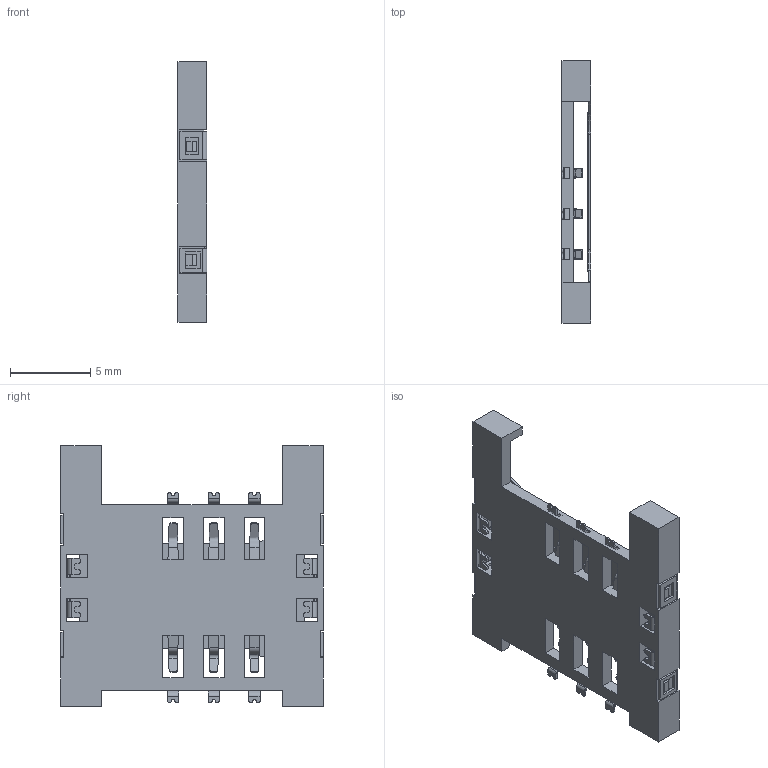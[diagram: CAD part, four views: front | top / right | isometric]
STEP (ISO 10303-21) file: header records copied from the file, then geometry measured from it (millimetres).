
FILE_DESCRIPTION((''),'2;1');
FILE_NAME('SIM-CARD_1050606AR006','2019-02-26T',('Administrator'),(''),'PRO/ENGINEER BY PARAMETRIC TECHNOLOGY CORPORATION, 2010280','PRO/ENGINEER BY PARAMETRIC TECHNOLOGY CORPORATION, 2010280','');
FILE_SCHEMA(('CONFIG_CONTROL_DESIGN'));
Length unit declared in the file: millimetre
Products named in the file (1): SIM-CARD_1050606AR006
Bounding box: 1.85 x 16.4 x 16.3 mm (x, y, z)
Volume: 178.6 mm3; surface area: 859.9 mm2
Topology: 5 solids, 5 shells, 470 faces, 1382 edges, 922 vertices
Faces by surface type: plane 320, cylinder 142, cone 8
Entity records: 15744 total; most frequent: CARTESIAN_POINT 3026, ORIENTED_EDGE 2764, DIRECTION 2478, EDGE_CURVE 1382, VECTOR 1082, LINE 1082, VERTEX_POINT 922, AXIS2_PLACEMENT_3D 698
